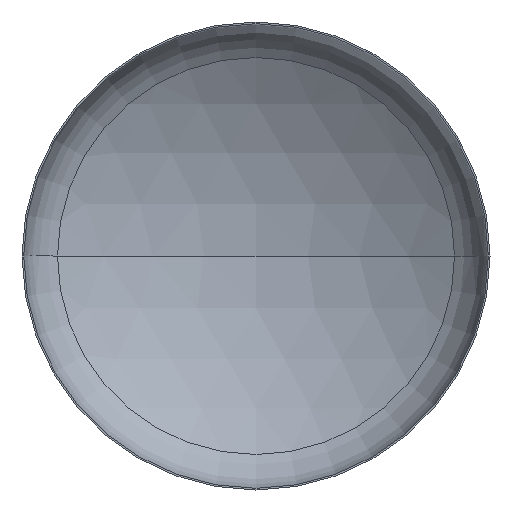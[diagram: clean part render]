
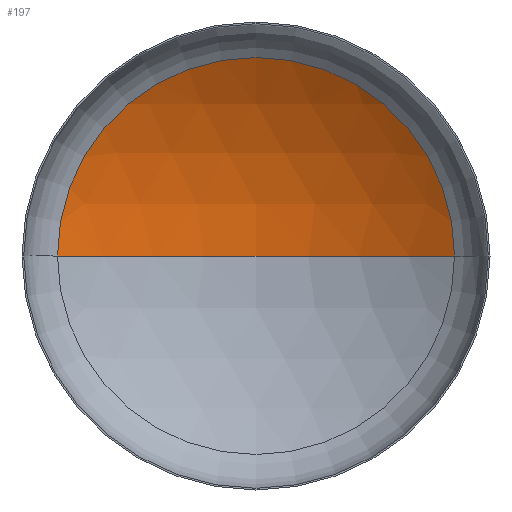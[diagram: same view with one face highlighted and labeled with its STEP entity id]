
A CAD part, front view. The second image highlights one B-rep face of the part: STEP entity #197.
In plain terms, the highlighted spherical face has radius 4400 mm.
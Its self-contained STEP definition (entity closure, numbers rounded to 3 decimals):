
#4 = AXIS2_PLACEMENT_3D ( 'NONE', #383, #200, #409 ) ;
#30 = AXIS2_PLACEMENT_3D ( 'NONE', #297, #230, #33 ) ;
#33 = DIRECTION ( 'NONE',  ( -1., 0., 0. ) ) ;
#64 = AXIS2_PLACEMENT_3D ( 'NONE', #332, #137, #358 ) ;
#72 = DIRECTION ( 'NONE',  ( 0., 0., 1. ) ) ;
#131 = CIRCLE ( 'NONE', #64, 4400. ) ;
#137 = DIRECTION ( 'NONE',  ( 0., 0., -1. ) ) ;
#197 = ADVANCED_FACE ( 'NONE', ( #327 ), #243, .F. ) ;
#200 = DIRECTION ( 'NONE',  ( 0., -1., 0. ) ) ;
#201 = CARTESIAN_POINT ( 'NONE',  ( 2333.052, 776.432, 0. ) ) ;
#230 = DIRECTION ( 'NONE',  ( 0., 0., -1. ) ) ;
#231 = CIRCLE ( 'NONE', #4, 2333.052 ) ;
#234 = CARTESIAN_POINT ( 'NONE',  ( -2333.052, 776.432, 0. ) ) ;
#243 = SPHERICAL_SURFACE ( 'NONE', #30, 4400. ) ;
#245 = VERTEX_POINT ( 'NONE', #355 ) ;
#249 = EDGE_CURVE ( 'NONE', #305, #263, #231, .T. ) ;
#263 = VERTEX_POINT ( 'NONE', #234 ) ;
#264 = EDGE_CURVE ( 'NONE', #245, #305, #131, .T. ) ;
#276 = CARTESIAN_POINT ( 'NONE',  ( 0., -2954.1, 0. ) ) ;
#283 = EDGE_CURVE ( 'NONE', #245, #263, #298, .T. ) ;
#296 = ORIENTED_EDGE ( 'NONE', *, *, #249, .T. ) ;
#297 = CARTESIAN_POINT ( 'NONE',  ( 0., -2954.1, 0. ) ) ;
#298 = CIRCLE ( 'NONE', #319, 4400. ) ;
#303 = DIRECTION ( 'NONE',  ( 1., 0., 0. ) ) ;
#305 = VERTEX_POINT ( 'NONE', #201 ) ;
#319 = AXIS2_PLACEMENT_3D ( 'NONE', #276, #72, #303 ) ;
#327 = FACE_OUTER_BOUND ( 'NONE', #328, .T. ) ;
#328 = EDGE_LOOP ( 'NONE', ( #372, #333, #296 ) ) ;
#332 = CARTESIAN_POINT ( 'NONE',  ( 0., -2954.1, 0. ) ) ;
#333 = ORIENTED_EDGE ( 'NONE', *, *, #264, .T. ) ;
#355 = CARTESIAN_POINT ( 'NONE',  ( 0., 1445.9, 0. ) ) ;
#358 = DIRECTION ( 'NONE',  ( -1., 0., 0. ) ) ;
#372 = ORIENTED_EDGE ( 'NONE', *, *, #283, .F. ) ;
#383 = CARTESIAN_POINT ( 'NONE',  ( 0., 776.432, 0. ) ) ;
#409 = DIRECTION ( 'NONE',  ( 1., 0., 0. ) ) ;
